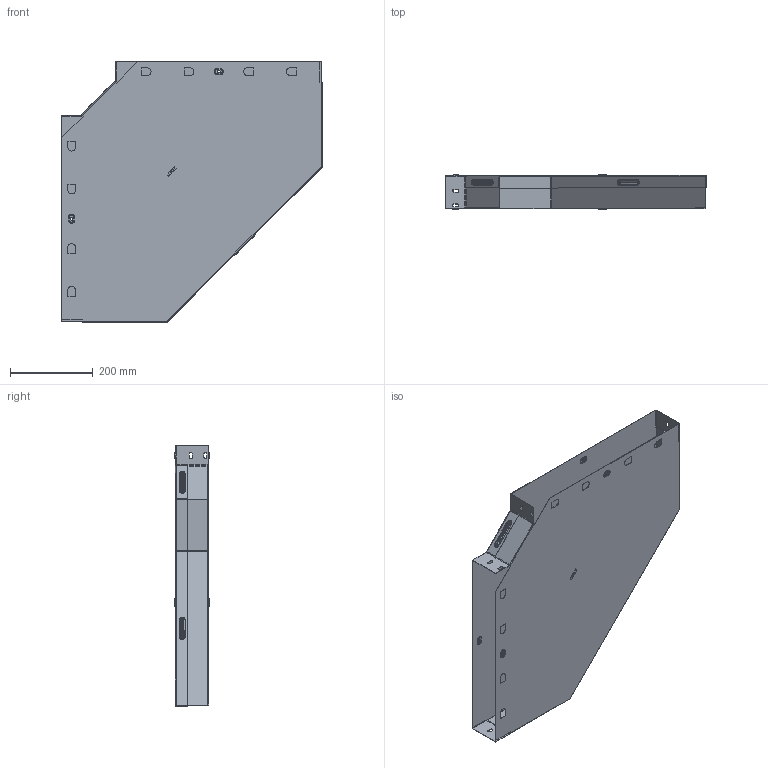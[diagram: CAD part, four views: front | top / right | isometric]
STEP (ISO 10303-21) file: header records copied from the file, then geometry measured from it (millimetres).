
FILE_DESCRIPTION (( 'STEP AP214' ), '1' );
FILE_NAME ('g9080500_捘.STEP', '2019-06-10T09:52:31', ( '砐錪賧瘔蠈錪 Windows' ), ( '' ), 'SwSTEP 2.0', 'SolidWorks 2018', '' );
FILE_SCHEMA (( 'AUTOMOTIVE_DESIGN' ));
Length unit declared in the file: millimetre
Products named in the file (1): g9080500_捘
Bounding box: 630.8 x 83.8 x 630.8 mm (x, y, z)
Volume: 596889 mm3; surface area: 1498026.2 mm2
Topology: 2 solids, 2 shells, 598 faces, 1662 edges, 1076 vertices
Faces by surface type: plane 352, cylinder 156, torus 64, bspline 26
Entity records: 20463 total; most frequent: CARTESIAN_POINT 4813, ORIENTED_EDGE 3324, DIRECTION 3136, EDGE_CURVE 1662, VECTOR 1206, LINE 1206, VERTEX_POINT 1076, AXIS2_PLACEMENT_3D 965
